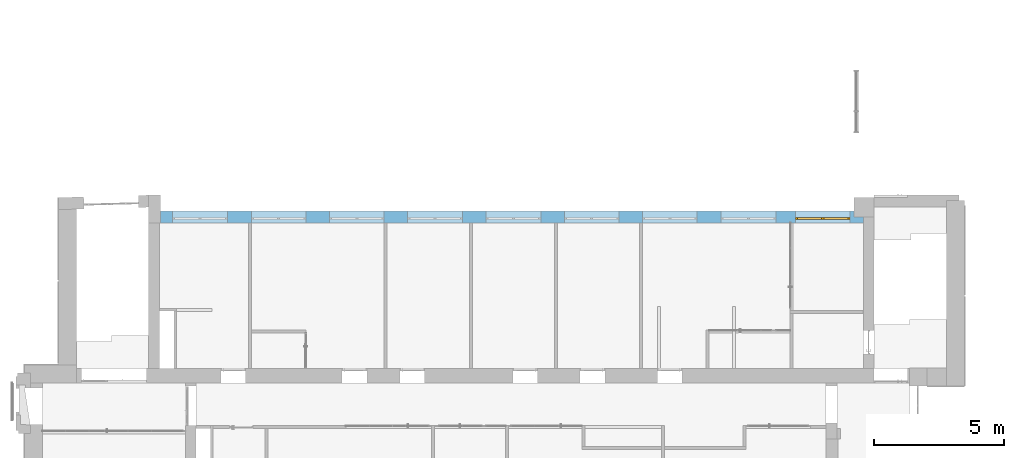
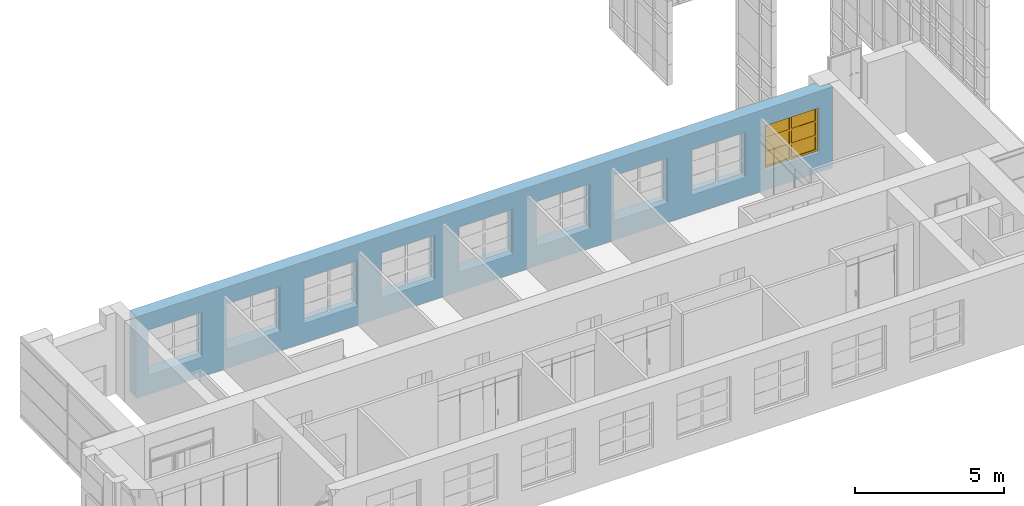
# One storey, part 67 of 73: 1 window, 9 openings, plus 1 element that does not belong to this part.
"""IFC2X3 building model written with IfcOpenShell, lengths in millimetres."""

from ifc_helpers import new_model, entity, si_unit, converted_unit, derived_unit, direction, frame, frame_2d, origin, origin_2d_with_axis, place, context, subcontext, project, spatial, polyline, rectangle, outline, extrude, face_set, surface_model, source, transform, mapped, material, material_list, layer, layer_set, layer_usage, type_object, type_shapes, element, fill, save


model = new_model("IFC2X3")

# Units and contexts
model_context = context("Model", 3, precision=0.01, world=origin(), true_north=direction((6.12303176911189e-17, 1.0)))
body_context = subcontext(model_context, "Body", "Model", "MODEL_VIEW")
ifc_project = project(units=[si_unit("LENGTHUNIT", "METRE", prefix="MILLI"), si_unit("AREAUNIT", "SQUARE_METRE"), si_unit("VOLUMEUNIT", "CUBIC_METRE"), converted_unit("PLANEANGLEUNIT", "DEGREE", entity("IfcRatioMeasure", 0.0174532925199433), si_unit("PLANEANGLEUNIT", "RADIAN"), dimensions=[0, 0, 0, 0, 0, 0, 0]), si_unit("MASSUNIT", "GRAM", prefix="KILO"), derived_unit("MASSDENSITYUNIT", [(si_unit("MASSUNIT", "GRAM", prefix="KILO"), 1), (si_unit("LENGTHUNIT", "METRE"), -3)]), si_unit("TIMEUNIT", "SECOND"), si_unit("FREQUENCYUNIT", "HERTZ"), si_unit("THERMODYNAMICTEMPERATUREUNIT", "DEGREE_CELSIUS"), derived_unit("THERMALTRANSMITTANCEUNIT", [(si_unit("MASSUNIT", "GRAM", prefix="KILO"), 1), (si_unit("THERMODYNAMICTEMPERATUREUNIT", "KELVIN"), -1), (si_unit("TIMEUNIT", "SECOND"), -3)]), derived_unit("VOLUMETRICFLOWRATEUNIT", [(si_unit("LENGTHUNIT", "METRE"), 3), (si_unit("TIMEUNIT", "SECOND"), -1)]), si_unit("ELECTRICCURRENTUNIT", "AMPERE"), si_unit("ELECTRICVOLTAGEUNIT", "VOLT"), si_unit("POWERUNIT", "WATT"), si_unit("FORCEUNIT", "NEWTON", prefix="KILO"), si_unit("ILLUMINANCEUNIT", "LUX"), si_unit("LUMINOUSFLUXUNIT", "LUMEN"), si_unit("LUMINOUSINTENSITYUNIT", "CANDELA"), derived_unit("USERDEFINED", [(si_unit("MASSUNIT", "GRAM", prefix="KILO"), -1), (si_unit("LENGTHUNIT", "METRE"), -2), (si_unit("TIMEUNIT", "SECOND"), 3), (si_unit("LUMINOUSFLUXUNIT", "LUMEN"), 1)]), derived_unit("LINEARVELOCITYUNIT", [(si_unit("LENGTHUNIT", "METRE"), 1), (si_unit("TIMEUNIT", "SECOND"), -1)]), si_unit("PRESSUREUNIT", "PASCAL"), derived_unit("USERDEFINED", [(si_unit("LENGTHUNIT", "METRE"), -2), (si_unit("MASSUNIT", "GRAM", prefix="KILO"), 1), (si_unit("TIMEUNIT", "SECOND"), -2)])], contexts=[model_context])

# Site, building, storey
site_placement = place(None, frame((-151.875543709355, 2715.0, 0.0)))
site = spatial("IfcSite", under=ifc_project, at=site_placement, Name="Surface", CompositionType="ELEMENT")
building_placement = place(site_placement, origin())
building = spatial("IfcBuilding", under=site, at=building_placement, CompositionType="ELEMENT")
storey_placement = place(building_placement, frame((0.0, 0.0, 6730.43000000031)))
storey = spatial("IfcBuildingStorey", under=building, at=storey_placement, Name="3 korrus", CompositionType="ELEMENT", Elevation=6730.43000000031)

# Wall, openings, window
ifc_material_1 = material(Name="Brick, Common")
ifc_layer_1 = layer(ifc_material_1, 440.0)
ifc_material_2 = material(Name="__Kips GN13_tava")
ifc_layer_2 = layer(ifc_material_2, 20.0)
ifc_layer_set = layer_set([ifc_layer_1, ifc_layer_2], Name="Basic Wall:VS-1")
ifc_layer_usage = layer_usage(ifc_layer_set, "AXIS2", "POSITIVE", -230.0)
wall_type = type_object("IfcWallType", Name="Basic Wall:VS-1", PredefinedType="STANDARD", material=ifc_layer_set)
wall_placement = place(storey_placement, frame((31972.6162682, 12380.0, 0.00203353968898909), z_axis=(0.0, 0.0, 1.0), x_axis=(-1.0, 0.0, 0.0)))
wall = element("IfcWallStandardCase", 1, at=wall_placement, inside=storey, type_object=wall_type, material=ifc_layer_usage, Name="SEIN - 005", ObjectType="Basic Wall:VS-1", context=body_context, shape_type="SweptSolid", body=[
    extrude(outline(polyline([(26972.5418693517, -230.0), (26972.5418693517, 230.0), (0.0, 230.0), (0.0, 0.0), (370.0, 0.0), (370.0, -230.0), (26972.5418693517, -230.0)])), origin(), (0.0, 0.0, 1.0), 3329.56796646),
])
opening_1_placement = place(wall_placement, frame((31972.6162682, 12380.0, -0.00203353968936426), z_axis=(0.0, 0.0, 1.0), x_axis=(-1.0, 0.0, 0.0)))
element("IfcOpeningElement", 2, at=opening_1_placement, cuts=wall, Name="SEIN - 005", ObjectType="Opening", context=body_context, shape_type="SweptSolid", body=[
    extrude(rectangle(XDim=1850.0, YDim=2100.0, at=frame_2d((0.0, -5.6843418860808e-13), x_axis=(1.0, 0.0))), frame((6512.84934801, 13077.9, 1725.00203353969), z_axis=(0.0, -1.0, 0.0), x_axis=(0.0, 0.0, 1.0)), (0.0, 0.0, 1.0), 1393.8),
])
opening_2_placement = place(wall_placement, frame((31972.6162682, 12380.0, -0.00203353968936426), z_axis=(0.0, 0.0, 1.0), x_axis=(-1.0, 0.0, 0.0)))
element("IfcOpeningElement", 3, at=opening_2_placement, cuts=wall, Name="SEIN - 005", ObjectType="Opening", context=body_context, shape_type="SweptSolid", body=[
    extrude(rectangle(XDim=1850.0, YDim=2100.0, at=origin_2d_with_axis()), frame((9532.84934801, 13077.9, 1725.00203353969), z_axis=(0.0, -1.0, 0.0), x_axis=(0.0, 0.0, 1.0)), (0.0, 0.0, 1.0), 1393.8),
])
opening_3_placement = place(wall_placement, frame((31972.6162682, 12380.0, -0.00203353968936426), z_axis=(0.0, 0.0, 1.0), x_axis=(-1.0, 0.0, 0.0)))
element("IfcOpeningElement", 4, at=opening_3_placement, cuts=wall, Name="SEIN - 005", ObjectType="Opening", context=body_context, shape_type="SweptSolid", body=[
    extrude(rectangle(XDim=1850.0, YDim=2100.0, at=frame_2d((0.0, -1.02318153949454e-12), x_axis=(1.0, 0.0))), frame((12532.84934801, 13077.9, 1725.00203353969), z_axis=(0.0, -1.0, 0.0), x_axis=(0.0, 0.0, 1.0)), (0.0, 0.0, 1.0), 1393.8),
])
opening_4_placement = place(wall_placement, frame((31972.6162682, 12380.0, -0.00203353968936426), z_axis=(0.0, 0.0, 1.0), x_axis=(-1.0, 0.0, 0.0)))
element("IfcOpeningElement", 5, at=opening_4_placement, cuts=wall, Name="SEIN - 005", ObjectType="Opening", context=body_context, shape_type="SweptSolid", body=[
    extrude(rectangle(XDim=1850.0, YDim=2100.0, at=origin_2d_with_axis()), frame((15532.849348, 13077.9, 1725.00203353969), z_axis=(0.0, -1.0, 0.0), x_axis=(0.0, 0.0, 1.0)), (0.0, 0.0, 1.0), 1393.8),
])
opening_5_placement = place(wall_placement, frame((31972.6162682, 12380.0, -0.00203353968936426), z_axis=(0.0, 0.0, 1.0), x_axis=(-1.0, 0.0, 0.0)))
element("IfcOpeningElement", 6, at=opening_5_placement, cuts=wall, Name="SEIN - 005", ObjectType="Opening", context=body_context, shape_type="SweptSolid", body=[
    extrude(rectangle(XDim=1850.0, YDim=2100.0, at=origin_2d_with_axis()), frame((18542.849348, 13077.9, 1725.00203353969), z_axis=(0.0, -1.0, 0.0), x_axis=(0.0, 0.0, 1.0)), (0.0, 0.0, 1.0), 1393.8),
])
opening_6_placement = place(wall_placement, frame((31972.6162682, 12380.0, -0.00203353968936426), z_axis=(0.0, 0.0, 1.0), x_axis=(-1.0, 0.0, 0.0)))
element("IfcOpeningElement", 7, at=opening_6_placement, cuts=wall, Name="SEIN - 005", ObjectType="Opening", context=body_context, shape_type="SweptSolid", body=[
    extrude(rectangle(XDim=1850.0, YDim=2100.0, at=origin_2d_with_axis()), frame((21543.0530903, 13077.9, 1725.00203353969), z_axis=(0.0, -1.0, 0.0), x_axis=(0.0, 0.0, 1.0)), (0.0, 0.0, 1.0), 1393.8),
])
opening_7_placement = place(wall_placement, frame((31972.6162682, 12380.0, -0.00203353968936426), z_axis=(0.0, 0.0, 1.0), x_axis=(-1.0, 0.0, 0.0)))
element("IfcOpeningElement", 8, at=opening_7_placement, cuts=wall, Name="SEIN - 005", ObjectType="Opening", context=body_context, shape_type="SweptSolid", body=[
    extrude(rectangle(XDim=1850.0, YDim=2100.0, at=origin_2d_with_axis()), frame((24543.0530903, 13077.9, 1725.00203353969), z_axis=(0.0, -1.0, 0.0), x_axis=(0.0, 0.0, 1.0)), (0.0, 0.0, 1.0), 1393.8),
])
opening_8_placement = place(wall_placement, frame((31972.6162682, 12380.0, -0.00203353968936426), z_axis=(0.0, 0.0, 1.0), x_axis=(-1.0, 0.0, 0.0)))
element("IfcOpeningElement", 9, at=opening_8_placement, cuts=wall, Name="SEIN - 005", ObjectType="Opening", context=body_context, shape_type="SweptSolid", body=[
    extrude(rectangle(XDim=1850.0, YDim=2100.0, at=origin_2d_with_axis()), frame((27563.0530903, 13077.9, 1725.00203353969), z_axis=(0.0, -1.0, 0.0), x_axis=(0.0, 0.0, 1.0)), (0.0, 0.0, 1.0), 1393.8),
])
opening_9_placement = place(wall_placement, frame((31972.6162682, 12380.0, -0.00203353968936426), z_axis=(0.0, 0.0, 1.0), x_axis=(-1.0, 0.0, 0.0)))
opening_9 = element("IfcOpeningElement", 10, at=opening_9_placement, cuts=wall, Name="SEIN - 005", ObjectType="Opening", context=body_context, shape_type="SweptSolid", body=[
    extrude(rectangle(XDim=1850.0, YDim=2100.0, at=origin_2d_with_axis()), frame((30412.5729235, 13077.9, 1725.00203353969), z_axis=(0.0, -1.0, 0.0), x_axis=(0.0, 0.0, 1.0)), (0.0, 0.0, 1.0), 1393.8),
])
ifc_material_3 = material(Name="Paint - Titanium White")
ifc_material_4 = material(Name="Paint - Dark Gray")
ifc_material_5 = material(Name="Glass - Clear Fast")
ifc_material_list_1 = material_list([ifc_material_3, ifc_material_4, ifc_material_5])
ifc_material_list_2 = material_list([ifc_material_3, ifc_material_4, ifc_material_5])
window_style = type_object("IfcWindowStyle", Name="Aken_1850x2100", ConstructionType="NOTDEFINED", OperationType="DOUBLE_PANEL_VERTICAL", ParameterTakesPrecedence=False, Sizeable=False, material=ifc_material_list_2)
shared_shape = source(origin(), body_context, "Body", "SurfaceModel", [
    surface_model("IfcFaceBasedSurfaceModel", [(80.0, -665.9, 1770.0), (80.0, -620.9, 1770.0), (0.0, -620.9, 1770.0), (0.0, -665.9, 1770.0), (80.0, -665.9, 80.0), (80.0, -620.9, 80.0), (80.0, -620.9, 1770.0), (80.0, -665.9, 1770.0), (80.0, -620.9, 1770.0), (80.0, -620.9, 80.0), (0.0, -620.9, 80.0), (0.0, -620.9, 1770.0), (0.0, -665.9, 1770.0), (0.0, -620.9, 1770.0), (0.0, -620.9, 80.0), (0.0, -665.9, 80.0), (80.0, -665.9, 1770.0), (0.0, -665.9, 1770.0), (0.0, -665.9, 80.0), (80.0, -665.9, 80.0), (0.0, -665.9, 80.0), (0.0, -620.9, 80.0), (80.0, -620.9, 80.0), (80.0, -665.9, 80.0), (2020.0, -665.9, 80.0), (2020.0, -620.9, 80.0), (2100.0, -620.9, 80.0), (2100.0, -665.9, 80.0), (2020.0, -665.9, 1770.0), (2020.0, -620.9, 1770.0), (2020.0, -620.9, 80.0), (2020.0, -665.9, 80.0), (2020.0, -620.9, 80.0), (2020.0, -620.9, 1770.0), (2100.0, -620.9, 1770.0), (2100.0, -620.9, 80.0), (2100.0, -665.9, 80.0), (2100.0, -620.9, 80.0), (2100.0, -620.9, 1770.0), (2100.0, -665.9, 1770.0), (2020.0, -665.9, 80.0), (2100.0, -665.9, 80.0), (2100.0, -665.9, 1770.0), (2020.0, -665.9, 1770.0), (2100.0, -665.9, 1770.0), (2100.0, -620.9, 1770.0), (2020.0, -620.9, 1770.0), (2020.0, -665.9, 1770.0), (1010.0, -665.9, 80.0), (1010.0, -620.9, 80.0), (1090.0, -620.9, 80.0), (1090.0, -665.9, 80.0), (1010.0, -665.9, 1770.0), (1010.0, -620.9, 1770.0), (1010.0, -620.9, 80.0), (1010.0, -665.9, 80.0), (1010.0, -620.9, 80.0), (1010.0, -620.9, 1770.0), (1090.0, -620.9, 1770.0), (1090.0, -620.9, 80.0), (1090.0, -665.9, 80.0), (1090.0, -620.9, 80.0), (1090.0, -620.9, 1770.0), (1090.0, -665.9, 1770.0), (1010.0, -665.9, 80.0), (1090.0, -665.9, 80.0), (1090.0, -665.9, 1770.0), (1010.0, -665.9, 1770.0), (1090.0, -665.9, 1770.0), (1090.0, -620.9, 1770.0), (1010.0, -620.9, 1770.0), (1010.0, -665.9, 1770.0), (80.0, -665.9, 80.0), (80.0, -620.9, 80.0), (0.0, -620.9, 80.0), (0.0, -665.9, 80.0), (1010.0, -665.9, 80.0), (1010.0, -620.9, 80.0), (80.0, -620.9, 80.0), (80.0, -665.9, 80.0), (80.0, -620.9, 80.0), (1010.0, -620.9, 80.0), (1090.0, -620.9, 80.0), (2020.0, -620.9, 80.0), (2100.0, -620.9, 80.0), (2100.0, -620.9, 0.0), (0.0, -620.9, 0.0), (0.0, -620.9, 80.0), (0.0, -665.9, 80.0), (0.0, -620.9, 80.0), (0.0, -620.9, 0.0), (0.0, -665.9, 0.0), (80.0, -665.9, 80.0), (0.0, -665.9, 80.0), (0.0, -665.9, 0.0), (2100.0, -665.9, 0.0), (2100.0, -665.9, 80.0), (2020.0, -665.9, 80.0), (1090.0, -665.9, 80.0), (1010.0, -665.9, 80.0), (1090.0, -665.9, 80.0), (1090.0, -620.9, 80.0), (1010.0, -620.9, 80.0), (1010.0, -665.9, 80.0), (2020.0, -665.9, 80.0), (2020.0, -620.9, 80.0), (1090.0, -620.9, 80.0), (1090.0, -665.9, 80.0), (2100.0, -665.9, 80.0), (2100.0, -620.9, 80.0), (2020.0, -620.9, 80.0), (2020.0, -665.9, 80.0), (2100.0, -665.9, 0.0), (2100.0, -620.9, 0.0), (2100.0, -620.9, 80.0), (2100.0, -665.9, 80.0), (0.0, -665.9, 0.0), (0.0, -620.9, 0.0), (2100.0, -620.9, 0.0), (2100.0, -665.9, 0.0), (1010.0, -665.9, 1770.0), (1010.0, -620.9, 1770.0), (1090.0, -620.9, 1770.0), (1090.0, -665.9, 1770.0), (80.0, -665.9, 1770.0), (80.0, -620.9, 1770.0), (1010.0, -620.9, 1770.0), (1010.0, -665.9, 1770.0), (1010.0, -620.9, 1770.0), (80.0, -620.9, 1770.0), (0.0, -620.9, 1770.0), (0.0, -620.9, 1850.0), (2100.0, -620.9, 1850.0), (2100.0, -620.9, 1770.0), (2020.0, -620.9, 1770.0), (1090.0, -620.9, 1770.0), (1090.0, -665.9, 1770.0), (1090.0, -620.9, 1770.0), (2020.0, -620.9, 1770.0), (2020.0, -665.9, 1770.0), (1010.0, -665.9, 1770.0), (1090.0, -665.9, 1770.0), (2020.0, -665.9, 1770.0), (2100.0, -665.9, 1770.0), (2100.0, -665.9, 1850.0), (0.0, -665.9, 1850.0), (0.0, -665.9, 1770.0), (80.0, -665.9, 1770.0), (0.0, -665.9, 1770.0), (0.0, -620.9, 1770.0), (80.0, -620.9, 1770.0), (80.0, -665.9, 1770.0), (0.0, -665.9, 1850.0), (0.0, -620.9, 1850.0), (0.0, -620.9, 1770.0), (0.0, -665.9, 1770.0), (2100.0, -665.9, 1850.0), (2100.0, -620.9, 1850.0), (0.0, -620.9, 1850.0), (0.0, -665.9, 1850.0), (2100.0, -665.9, 1770.0), (2100.0, -620.9, 1770.0), (2100.0, -620.9, 1850.0), (2100.0, -665.9, 1850.0), (2020.0, -665.9, 1770.0), (2020.0, -620.9, 1770.0), (2100.0, -620.9, 1770.0), (2100.0, -665.9, 1770.0), (80.0, -640.9, 590.0), (80.0, -630.9, 590.0), (1010.0, -630.9, 590.0), (1010.0, -640.9, 590.0), (80.0, -640.9, 670.0), (80.0, -630.9, 670.0), (80.0, -630.9, 590.0), (80.0, -640.9, 590.0), (80.0, -630.9, 590.0), (80.0, -630.9, 670.0), (1010.0, -630.9, 670.0), (1010.0, -630.9, 590.0), (1010.0, -640.9, 590.0), (1010.0, -630.9, 590.0), (1010.0, -630.9, 670.0), (1010.0, -640.9, 670.0), (80.0, -640.9, 590.0), (1010.0, -640.9, 590.0), (1010.0, -640.9, 670.0), (80.0, -640.9, 670.0), (1010.0, -640.9, 670.0), (1010.0, -630.9, 670.0), (80.0, -630.9, 670.0), (80.0, -640.9, 670.0), (80.0, -640.9, 1180.0), (80.0, -630.9, 1180.0), (1010.0, -630.9, 1180.0), (1010.0, -640.9, 1180.0), (80.0, -640.9, 1260.0), (80.0, -630.9, 1260.0), (80.0, -630.9, 1180.0), (80.0, -640.9, 1180.0), (80.0, -630.9, 1180.0), (80.0, -630.9, 1260.0), (1010.0, -630.9, 1260.0), (1010.0, -630.9, 1180.0), (1010.0, -640.9, 1180.0), (1010.0, -630.9, 1180.0), (1010.0, -630.9, 1260.0), (1010.0, -640.9, 1260.0), (80.0, -640.9, 1180.0), (1010.0, -640.9, 1180.0), (1010.0, -640.9, 1260.0), (80.0, -640.9, 1260.0), (1010.0, -640.9, 1260.0), (1010.0, -630.9, 1260.0), (80.0, -630.9, 1260.0), (80.0, -640.9, 1260.0), (1090.0, -640.9, 590.0), (1090.0, -630.9, 590.0), (2020.0, -630.9, 590.0), (2020.0, -640.9, 590.0), (1090.0, -640.9, 670.0), (1090.0, -630.9, 670.0), (1090.0, -630.9, 590.0), (1090.0, -640.9, 590.0), (1090.0, -630.9, 590.0), (1090.0, -630.9, 670.0), (2020.0, -630.9, 670.0), (2020.0, -630.9, 590.0), (2020.0, -640.9, 590.0), (2020.0, -630.9, 590.0), (2020.0, -630.9, 670.0), (2020.0, -640.9, 670.0), (1090.0, -640.9, 590.0), (2020.0, -640.9, 590.0), (2020.0, -640.9, 670.0), (1090.0, -640.9, 670.0), (2020.0, -640.9, 670.0), (2020.0, -630.9, 670.0), (1090.0, -630.9, 670.0), (1090.0, -640.9, 670.0), (1090.0, -640.9, 1180.0), (1090.0, -630.9, 1180.0), (2020.0, -630.9, 1180.0), (2020.0, -640.9, 1180.0), (1090.0, -640.9, 1260.0), (1090.0, -630.9, 1260.0), (1090.0, -630.9, 1180.0), (1090.0, -640.9, 1180.0), (1090.0, -630.9, 1180.0), (1090.0, -630.9, 1260.0), (2020.0, -630.9, 1260.0), (2020.0, -630.9, 1180.0), (2020.0, -640.9, 1180.0), (2020.0, -630.9, 1180.0), (2020.0, -630.9, 1260.0), (2020.0, -640.9, 1260.0), (1090.0, -640.9, 1180.0), (2020.0, -640.9, 1180.0), (2020.0, -640.9, 1260.0), (1090.0, -640.9, 1260.0), (2020.0, -640.9, 1260.0), (2020.0, -630.9, 1260.0), (1090.0, -630.9, 1260.0), (1090.0, -640.9, 1260.0)], [face_set([[[0, 1, 2, 3]]]), face_set([[[4, 5, 6, 7]]]), face_set([[[8, 9, 10, 11]]]), face_set([[[12, 13, 14, 15]]]), face_set([[[16, 17, 18, 19]]]), face_set([[[20, 21, 22, 23]]]), face_set([[[24, 25, 26, 27]]]), face_set([[[28, 29, 30, 31]]]), face_set([[[32, 33, 34, 35]]]), face_set([[[36, 37, 38, 39]]]), face_set([[[40, 41, 42, 43]]]), face_set([[[44, 45, 46, 47]]]), face_set([[[48, 49, 50, 51]]]), face_set([[[52, 53, 54, 55]]]), face_set([[[56, 57, 58, 59]]]), face_set([[[60, 61, 62, 63]]]), face_set([[[64, 65, 66, 67]]]), face_set([[[68, 69, 70, 71]]]), face_set([[[72, 73, 74, 75]]]), face_set([[[76, 77, 78, 79]]]), face_set([[[80, 81, 82, 83, 84, 85, 86, 87]]]), face_set([[[88, 89, 90, 91]]]), face_set([[[92, 93, 94, 95, 96, 97, 98, 99]]]), face_set([[[100, 101, 102, 103]]]), face_set([[[104, 105, 106, 107]]]), face_set([[[108, 109, 110, 111]]]), face_set([[[112, 113, 114, 115]]]), face_set([[[116, 117, 118, 119]]]), face_set([[[120, 121, 122, 123]]]), face_set([[[124, 125, 126, 127]]]), face_set([[[128, 129, 130, 131, 132, 133, 134, 135]]]), face_set([[[136, 137, 138, 139]]]), face_set([[[140, 141, 142, 143, 144, 145, 146, 147]]]), face_set([[[148, 149, 150, 151]]]), face_set([[[152, 153, 154, 155]]]), face_set([[[156, 157, 158, 159]]]), face_set([[[160, 161, 162, 163]]]), face_set([[[164, 165, 166, 167]]]), face_set([[[168, 169, 170, 171]]]), face_set([[[172, 173, 174, 175]]]), face_set([[[176, 177, 178, 179]]]), face_set([[[180, 181, 182, 183]]]), face_set([[[184, 185, 186, 187]]]), face_set([[[188, 189, 190, 191]]]), face_set([[[192, 193, 194, 195]]]), face_set([[[196, 197, 198, 199]]]), face_set([[[200, 201, 202, 203]]]), face_set([[[204, 205, 206, 207]]]), face_set([[[208, 209, 210, 211]]]), face_set([[[212, 213, 214, 215]]]), face_set([[[216, 217, 218, 219]]]), face_set([[[220, 221, 222, 223]]]), face_set([[[224, 225, 226, 227]]]), face_set([[[228, 229, 230, 231]]]), face_set([[[232, 233, 234, 235]]]), face_set([[[236, 237, 238, 239]]]), face_set([[[240, 241, 242, 243]]]), face_set([[[244, 245, 246, 247]]]), face_set([[[248, 249, 250, 251]]]), face_set([[[252, 253, 254, 255]]]), face_set([[[256, 257, 258, 259]]]), face_set([[[260, 261, 262, 263]]])]),
    surface_model("IfcFaceBasedSurfaceModel", [(80.0, -620.9, 1770.0), (80.0, -595.9, 1770.0), (0.0, -595.9, 1770.0), (0.0, -620.9, 1770.0), (80.0, -620.9, 80.0), (80.0, -595.9, 80.0), (80.0, -595.9, 1770.0), (80.0, -620.9, 1770.0), (80.0, -595.9, 1770.0), (80.0, -595.9, 80.0), (0.0, -595.9, 80.0), (0.0, -595.9, 1770.0), (0.0, -620.9, 1770.0), (0.0, -595.9, 1770.0), (0.0, -595.9, 80.0), (0.0, -620.9, 80.0), (80.0, -620.9, 1770.0), (0.0, -620.9, 1770.0), (0.0, -620.9, 80.0), (80.0, -620.9, 80.0), (0.0, -620.9, 80.0), (0.0, -595.9, 80.0), (80.0, -595.9, 80.0), (80.0, -620.9, 80.0), (2020.0, -620.9, 80.0), (2020.0, -595.9, 80.0), (2100.0, -595.9, 80.0), (2100.0, -620.9, 80.0), (2020.0, -620.9, 1770.0), (2020.0, -595.9, 1770.0), (2020.0, -595.9, 80.0), (2020.0, -620.9, 80.0), (2020.0, -595.9, 80.0), (2020.0, -595.9, 1770.0), (2100.0, -595.9, 1770.0), (2100.0, -595.9, 80.0), (2100.0, -620.9, 80.0), (2100.0, -595.9, 80.0), (2100.0, -595.9, 1770.0), (2100.0, -620.9, 1770.0), (2020.0, -620.9, 80.0), (2100.0, -620.9, 80.0), (2100.0, -620.9, 1770.0), (2020.0, -620.9, 1770.0), (2100.0, -620.9, 1770.0), (2100.0, -595.9, 1770.0), (2020.0, -595.9, 1770.0), (2020.0, -620.9, 1770.0), (1010.0, -620.9, 80.0), (1010.0, -595.9, 80.0), (1090.0, -595.9, 80.0), (1090.0, -620.9, 80.0), (1010.0, -620.9, 1770.0), (1010.0, -595.9, 1770.0), (1010.0, -595.9, 80.0), (1010.0, -620.9, 80.0), (1010.0, -595.9, 80.0), (1010.0, -595.9, 1770.0), (1090.0, -595.9, 1770.0), (1090.0, -595.9, 80.0), (1090.0, -620.9, 80.0), (1090.0, -595.9, 80.0), (1090.0, -595.9, 1770.0), (1090.0, -620.9, 1770.0), (1010.0, -620.9, 80.0), (1090.0, -620.9, 80.0), (1090.0, -620.9, 1770.0), (1010.0, -620.9, 1770.0), (1090.0, -620.9, 1770.0), (1090.0, -595.9, 1770.0), (1010.0, -595.9, 1770.0), (1010.0, -620.9, 1770.0), (80.0, -620.9, 80.0), (80.0, -595.9, 80.0), (0.0, -595.9, 80.0), (0.0, -620.9, 80.0), (1010.0, -620.9, 80.0), (1010.0, -595.9, 80.0), (80.0, -595.9, 80.0), (80.0, -620.9, 80.0), (80.0, -595.9, 80.0), (1010.0, -595.9, 80.0), (1090.0, -595.9, 80.0), (2020.0, -595.9, 80.0), (2100.0, -595.9, 80.0), (2100.0, -595.9, 0.0), (0.0, -595.9, 0.0), (0.0, -595.9, 80.0), (0.0, -620.9, 80.0), (0.0, -595.9, 80.0), (0.0, -595.9, 0.0), (0.0, -620.9, 0.0), (80.0, -620.9, 80.0), (0.0, -620.9, 80.0), (0.0, -620.9, 0.0), (2100.0, -620.9, 0.0), (2100.0, -620.9, 80.0), (2020.0, -620.9, 80.0), (1090.0, -620.9, 80.0), (1010.0, -620.9, 80.0), (1090.0, -620.9, 80.0), (1090.0, -595.9, 80.0), (1010.0, -595.9, 80.0), (1010.0, -620.9, 80.0), (2020.0, -620.9, 80.0), (2020.0, -595.9, 80.0), (1090.0, -595.9, 80.0), (1090.0, -620.9, 80.0), (2100.0, -620.9, 80.0), (2100.0, -595.9, 80.0), (2020.0, -595.9, 80.0), (2020.0, -620.9, 80.0), (2100.0, -620.9, 0.0), (2100.0, -595.9, 0.0), (2100.0, -595.9, 80.0), (2100.0, -620.9, 80.0), (0.0, -620.9, 0.0), (0.0, -595.9, 0.0), (2100.0, -595.9, 0.0), (2100.0, -620.9, 0.0), (1010.0, -620.9, 1770.0), (1010.0, -595.9, 1770.0), (1090.0, -595.9, 1770.0), (1090.0, -620.9, 1770.0), (80.0, -620.9, 1770.0), (80.0, -595.9, 1770.0), (1010.0, -595.9, 1770.0), (1010.0, -620.9, 1770.0), (1010.0, -595.9, 1770.0), (80.0, -595.9, 1770.0), (0.0, -595.9, 1770.0), (0.0, -595.9, 1850.0), (2100.0, -595.9, 1850.0), (2100.0, -595.9, 1770.0), (2020.0, -595.9, 1770.0), (1090.0, -595.9, 1770.0), (1090.0, -620.9, 1770.0), (1090.0, -595.9, 1770.0), (2020.0, -595.9, 1770.0), (2020.0, -620.9, 1770.0), (1010.0, -620.9, 1770.0), (1090.0, -620.9, 1770.0), (2020.0, -620.9, 1770.0), (2100.0, -620.9, 1770.0), (2100.0, -620.9, 1850.0), (0.0, -620.9, 1850.0), (0.0, -620.9, 1770.0), (80.0, -620.9, 1770.0), (0.0, -620.9, 1770.0), (0.0, -595.9, 1770.0), (80.0, -595.9, 1770.0), (80.0, -620.9, 1770.0), (0.0, -620.9, 1850.0), (0.0, -595.9, 1850.0), (0.0, -595.9, 1770.0), (0.0, -620.9, 1770.0), (2100.0, -620.9, 1850.0), (2100.0, -595.9, 1850.0), (0.0, -595.9, 1850.0), (0.0, -620.9, 1850.0), (2100.0, -620.9, 1770.0), (2100.0, -595.9, 1770.0), (2100.0, -595.9, 1850.0), (2100.0, -620.9, 1850.0), (2020.0, -620.9, 1770.0), (2020.0, -595.9, 1770.0), (2100.0, -595.9, 1770.0), (2100.0, -620.9, 1770.0), (80.0, -630.9, 590.0), (80.0, -600.9, 590.0), (1010.0, -600.9, 590.0), (1010.0, -630.9, 590.0), (80.0, -630.9, 670.0), (80.0, -600.9, 670.0), (80.0, -600.9, 590.0), (80.0, -630.9, 590.0), (80.0, -600.9, 590.0), (80.0, -600.9, 670.0), (1010.0, -600.9, 670.0), (1010.0, -600.9, 590.0), (1010.0, -630.9, 590.0), (1010.0, -600.9, 590.0), (1010.0, -600.9, 670.0), (1010.0, -630.9, 670.0), (80.0, -630.9, 590.0), (1010.0, -630.9, 590.0), (1010.0, -630.9, 670.0), (80.0, -630.9, 670.0), (1010.0, -630.9, 670.0), (1010.0, -600.9, 670.0), (80.0, -600.9, 670.0), (80.0, -630.9, 670.0), (80.0, -630.9, 1180.0), (80.0, -600.9, 1180.0), (1010.0, -600.9, 1180.0), (1010.0, -630.9, 1180.0), (80.0, -630.9, 1260.0), (80.0, -600.9, 1260.0), (80.0, -600.9, 1180.0), (80.0, -630.9, 1180.0), (80.0, -600.9, 1180.0), (80.0, -600.9, 1260.0), (1010.0, -600.9, 1260.0), (1010.0, -600.9, 1180.0), (1010.0, -630.9, 1180.0), (1010.0, -600.9, 1180.0), (1010.0, -600.9, 1260.0), (1010.0, -630.9, 1260.0), (80.0, -630.9, 1180.0), (1010.0, -630.9, 1180.0), (1010.0, -630.9, 1260.0), (80.0, -630.9, 1260.0), (1010.0, -630.9, 1260.0), (1010.0, -600.9, 1260.0), (80.0, -600.9, 1260.0), (80.0, -630.9, 1260.0), (1090.0, -630.9, 590.0), (1090.0, -600.9, 590.0), (2020.0, -600.9, 590.0), (2020.0, -630.9, 590.0), (1090.0, -630.9, 670.0), (1090.0, -600.9, 670.0), (1090.0, -600.9, 590.0), (1090.0, -630.9, 590.0), (1090.0, -600.9, 590.0), (1090.0, -600.9, 670.0), (2020.0, -600.9, 670.0), (2020.0, -600.9, 590.0), (2020.0, -630.9, 590.0), (2020.0, -600.9, 590.0), (2020.0, -600.9, 670.0), (2020.0, -630.9, 670.0), (1090.0, -630.9, 590.0), (2020.0, -630.9, 590.0), (2020.0, -630.9, 670.0), (1090.0, -630.9, 670.0), (2020.0, -630.9, 670.0), (2020.0, -600.9, 670.0), (1090.0, -600.9, 670.0), (1090.0, -630.9, 670.0), (1090.0, -630.9, 1180.0), (1090.0, -600.9, 1180.0), (2020.0, -600.9, 1180.0), (2020.0, -630.9, 1180.0), (1090.0, -630.9, 1260.0), (1090.0, -600.9, 1260.0), (1090.0, -600.9, 1180.0), (1090.0, -630.9, 1180.0), (1090.0, -600.9, 1180.0), (1090.0, -600.9, 1260.0), (2020.0, -600.9, 1260.0), (2020.0, -600.9, 1180.0), (2020.0, -630.9, 1180.0), (2020.0, -600.9, 1180.0), (2020.0, -600.9, 1260.0), (2020.0, -630.9, 1260.0), (1090.0, -630.9, 1180.0), (2020.0, -630.9, 1180.0), (2020.0, -630.9, 1260.0), (1090.0, -630.9, 1260.0), (2020.0, -630.9, 1260.0), (2020.0, -600.9, 1260.0), (1090.0, -600.9, 1260.0), (1090.0, -630.9, 1260.0)], [face_set([[[0, 1, 2, 3]]]), face_set([[[4, 5, 6, 7]]]), face_set([[[8, 9, 10, 11]]]), face_set([[[12, 13, 14, 15]]]), face_set([[[16, 17, 18, 19]]]), face_set([[[20, 21, 22, 23]]]), face_set([[[24, 25, 26, 27]]]), face_set([[[28, 29, 30, 31]]]), face_set([[[32, 33, 34, 35]]]), face_set([[[36, 37, 38, 39]]]), face_set([[[40, 41, 42, 43]]]), face_set([[[44, 45, 46, 47]]]), face_set([[[48, 49, 50, 51]]]), face_set([[[52, 53, 54, 55]]]), face_set([[[56, 57, 58, 59]]]), face_set([[[60, 61, 62, 63]]]), face_set([[[64, 65, 66, 67]]]), face_set([[[68, 69, 70, 71]]]), face_set([[[72, 73, 74, 75]]]), face_set([[[76, 77, 78, 79]]]), face_set([[[80, 81, 82, 83, 84, 85, 86, 87]]]), face_set([[[88, 89, 90, 91]]]), face_set([[[92, 93, 94, 95, 96, 97, 98, 99]]]), face_set([[[100, 101, 102, 103]]]), face_set([[[104, 105, 106, 107]]]), face_set([[[108, 109, 110, 111]]]), face_set([[[112, 113, 114, 115]]]), face_set([[[116, 117, 118, 119]]]), face_set([[[120, 121, 122, 123]]]), face_set([[[124, 125, 126, 127]]]), face_set([[[128, 129, 130, 131, 132, 133, 134, 135]]]), face_set([[[136, 137, 138, 139]]]), face_set([[[140, 141, 142, 143, 144, 145, 146, 147]]]), face_set([[[148, 149, 150, 151]]]), face_set([[[152, 153, 154, 155]]]), face_set([[[156, 157, 158, 159]]]), face_set([[[160, 161, 162, 163]]]), face_set([[[164, 165, 166, 167]]]), face_set([[[168, 169, 170, 171]]]), face_set([[[172, 173, 174, 175]]]), face_set([[[176, 177, 178, 179]]]), face_set([[[180, 181, 182, 183]]]), face_set([[[184, 185, 186, 187]]]), face_set([[[188, 189, 190, 191]]]), face_set([[[192, 193, 194, 195]]]), face_set([[[196, 197, 198, 199]]]), face_set([[[200, 201, 202, 203]]]), face_set([[[204, 205, 206, 207]]]), face_set([[[208, 209, 210, 211]]]), face_set([[[212, 213, 214, 215]]]), face_set([[[216, 217, 218, 219]]]), face_set([[[220, 221, 222, 223]]]), face_set([[[224, 225, 226, 227]]]), face_set([[[228, 229, 230, 231]]]), face_set([[[232, 233, 234, 235]]]), face_set([[[236, 237, 238, 239]]]), face_set([[[240, 241, 242, 243]]]), face_set([[[244, 245, 246, 247]]]), face_set([[[248, 249, 250, 251]]]), face_set([[[252, 253, 254, 255]]]), face_set([[[256, 257, 258, 259]]]), face_set([[[260, 261, 262, 263]]])]),
    surface_model("IfcFaceBasedSurfaceModel", [(1010.0, -630.9, 80.0), (1010.0, -630.9, 590.0), (80.0, -630.9, 590.0), (80.0, -630.9, 80.0), (1010.0, -610.9, 80.0), (80.0, -610.9, 80.0), (80.0, -610.9, 590.0), (1010.0, -610.9, 590.0), (1010.0, -630.9, 670.0), (1010.0, -630.9, 1180.0), (80.0, -630.9, 1180.0), (80.0, -630.9, 670.0), (1010.0, -610.9, 670.0), (80.0, -610.9, 670.0), (80.0, -610.9, 1180.0), (1010.0, -610.9, 1180.0), (1010.0, -630.9, 1260.0), (1010.0, -630.9, 1770.0), (80.0, -630.9, 1770.0), (80.0, -630.9, 1260.0), (1010.0, -610.9, 1260.0), (80.0, -610.9, 1260.0), (80.0, -610.9, 1770.0), (1010.0, -610.9, 1770.0), (2020.0, -630.9, 80.0), (2020.0, -630.9, 590.0), (1090.0, -630.9, 590.0), (1090.0, -630.9, 80.0), (2020.0, -610.9, 80.0), (1090.0, -610.9, 80.0), (1090.0, -610.9, 590.0), (2020.0, -610.9, 590.0), (2020.0, -630.9, 670.0), (2020.0, -630.9, 1180.0), (1090.0, -630.9, 1180.0), (1090.0, -630.9, 670.0), (2020.0, -610.9, 670.0), (1090.0, -610.9, 670.0), (1090.0, -610.9, 1180.0), (2020.0, -610.9, 1180.0), (2020.0, -630.9, 1260.0), (2020.0, -630.9, 1770.0), (1090.0, -630.9, 1770.0), (1090.0, -630.9, 1260.0), (2020.0, -610.9, 1260.0), (1090.0, -610.9, 1260.0), (1090.0, -610.9, 1770.0), (2020.0, -610.9, 1770.0)], [face_set([[[0, 1, 2, 3]]]), face_set([[[4, 5, 6, 7]]]), face_set([[[8, 9, 10, 11]]]), face_set([[[12, 13, 14, 15]]]), face_set([[[16, 17, 18, 19]]]), face_set([[[20, 21, 22, 23]]]), face_set([[[24, 25, 26, 27]]]), face_set([[[28, 29, 30, 31]]]), face_set([[[32, 33, 34, 35]]]), face_set([[[36, 37, 38, 39]]]), face_set([[[40, 41, 42, 43]]]), face_set([[[44, 45, 46, 47]]])]),
])
type_shapes(window_style, [shared_shape])
window_placement = place(opening_9_placement, frame((31462.5729235, 11684.1, 800.002033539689), z_axis=(0.0, 0.0, 1.0), x_axis=(-1.0, 0.0, 0.0)))
window = element("IfcWindow", 11, at=window_placement, inside=storey, type_object=window_style, material=ifc_material_list_1, Name="Aken_1850x2100:Aken_1850x2100", ObjectType="Aken_1850x2100", OverallHeight=2100.0, OverallWidth=1850.0, context=body_context, shape_type="MappedRepresentation", body=[
    mapped(shared_shape, transform((0.0, 0.0, 0.0), scale=1.0)),
])
fill(opening_9, window)

save(model, "model.ifc")
